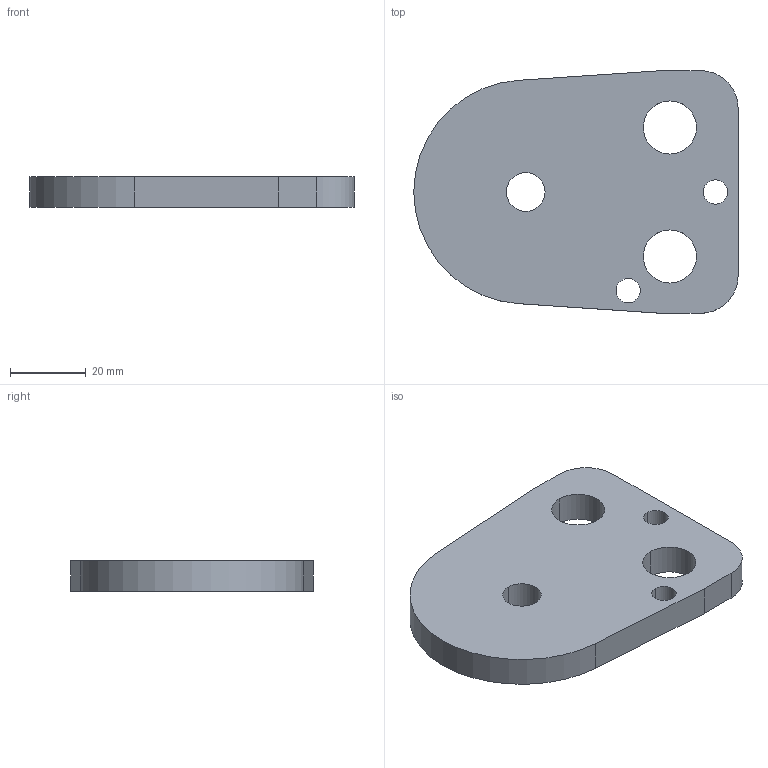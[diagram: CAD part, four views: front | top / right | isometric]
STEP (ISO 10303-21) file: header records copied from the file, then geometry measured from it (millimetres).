
FILE_DESCRIPTION(/* description */ (''),/* implementation_level */ '2;1');
FILE_NAME(/* name */ '3d_bpc45-8_03410_r00.stp',/* time_stamp */ '2011-01-10T14:17:08+09:00',/* author */ ('MISUMI'),/* organization */ (''),/* preprocessor_version */ 'ST-DEVELOPER v11',/* originating_system */ 'UGS - NX 5.0',/* authorisation */ '');
FILE_SCHEMA (('CONFIG_CONTROL_DESIGN'));
Length unit declared in the file: millimetre
Products named in the file (1): 3d_bpc45-8_03410_r00
Bounding box: 85.5 x 64 x 8 mm (x, y, z)
Volume: 34933.2 mm3; surface area: 12097.2 mm2
Topology: 1 solids, 1 shells, 20 faces, 54 edges, 36 vertices
Faces by surface type: cylinder 13, plane 7
Entity records: 750 total; most frequent: DIRECTION 122, CARTESIAN_POINT 111, ORIENTED_EDGE 108, EDGE_CURVE 54, AXIS2_PLACEMENT_3D 47, VERTEX_POINT 36, EDGE_LOOP 30, LINE 28
